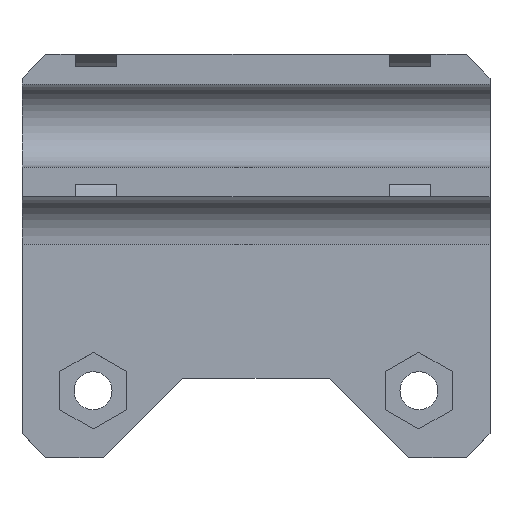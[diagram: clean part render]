
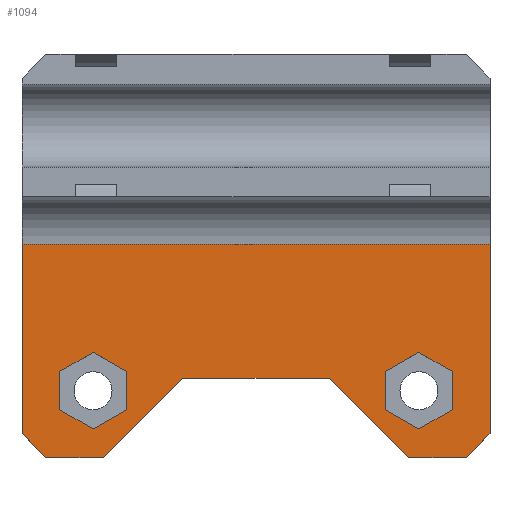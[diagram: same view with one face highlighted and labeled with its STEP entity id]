
A CAD part, top view. The second image highlights one B-rep face of the part: STEP entity #1094.
In plain terms, the highlighted planar face has unit normal (0, 0, 1).
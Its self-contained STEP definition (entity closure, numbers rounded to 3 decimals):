
#547=CARTESIAN_POINT('Line Origine',(-41.772,-4.381,-10.089)) ;
#551=CARTESIAN_POINT('Vertex',(-22.022,-4.381,-10.089)) ;
#553=CARTESIAN_POINT('Vertex',(-61.522,-4.381,-10.089)) ;
#592=CARTESIAN_POINT('Line Origine',(-22.022,-12.381,-10.089)) ;
#596=CARTESIAN_POINT('Vertex',(-22.022,-20.381,-10.089)) ;
#621=CARTESIAN_POINT('Line Origine',(-23.022,-21.381,-10.089)) ;
#625=CARTESIAN_POINT('Vertex',(-24.022,-22.381,-10.089)) ;
#652=CARTESIAN_POINT('Line Origine',(-61.522,-12.381,-10.089)) ;
#656=CARTESIAN_POINT('Vertex',(-61.522,-20.381,-10.089)) ;
#695=CARTESIAN_POINT('Line Origine',(-60.522,-21.381,-10.089)) ;
#699=CARTESIAN_POINT('Vertex',(-59.522,-22.381,-10.089)) ;
#818=CARTESIAN_POINT('Vertex',(-28.877,-22.381,-10.089)) ;
#828=CARTESIAN_POINT('Line Origine',(-26.45,-22.381,-10.089)) ;
#844=CARTESIAN_POINT('Vertex',(-54.667,-22.381,-10.089)) ;
#849=CARTESIAN_POINT('Line Origine',(-57.094,-22.381,-10.089)) ;
#871=CARTESIAN_POINT('Line Origine',(-38.669,-15.691,-10.089)) ;
#875=CARTESIAN_POINT('Vertex',(-35.567,-15.691,-10.089)) ;
#877=CARTESIAN_POINT('Vertex',(-41.772,-15.691,-10.089)) ;
#906=CARTESIAN_POINT('Line Origine',(-44.875,-15.691,-10.089)) ;
#910=CARTESIAN_POINT('Vertex',(-47.977,-15.691,-10.089)) ;
#942=CARTESIAN_POINT('Line Origine',(-32.222,-19.036,-10.089)) ;
#959=CARTESIAN_POINT('Line Origine',(-51.322,-19.036,-10.089)) ;
#976=CARTESIAN_POINT('Axis2P3D Location',(0.,0.,-10.089)) ;
#994=CARTESIAN_POINT('Line Origine',(-29.422,-19.167,-10.089)) ;
#998=CARTESIAN_POINT('Vertex',(-30.822,-18.358,-10.089)) ;
#1000=CARTESIAN_POINT('Vertex',(-28.022,-19.975,-10.089)) ;
#1003=CARTESIAN_POINT('Line Origine',(-30.822,-16.742,-10.089)) ;
#1007=CARTESIAN_POINT('Vertex',(-30.822,-15.125,-10.089)) ;
#1010=CARTESIAN_POINT('Line Origine',(-29.422,-14.317,-10.089)) ;
#1014=CARTESIAN_POINT('Vertex',(-28.022,-13.508,-10.089)) ;
#1017=CARTESIAN_POINT('Line Origine',(-26.622,-14.317,-10.089)) ;
#1021=CARTESIAN_POINT('Vertex',(-25.222,-15.125,-10.089)) ;
#1024=CARTESIAN_POINT('Line Origine',(-25.222,-16.742,-10.089)) ;
#1028=CARTESIAN_POINT('Vertex',(-25.222,-18.358,-10.089)) ;
#1031=CARTESIAN_POINT('Line Origine',(-26.622,-19.167,-10.089)) ;
#1044=CARTESIAN_POINT('Line Origine',(-56.922,-14.317,-10.089)) ;
#1048=CARTESIAN_POINT('Vertex',(-58.322,-15.125,-10.089)) ;
#1050=CARTESIAN_POINT('Vertex',(-55.522,-13.508,-10.089)) ;
#1053=CARTESIAN_POINT('Line Origine',(-54.122,-14.317,-10.089)) ;
#1057=CARTESIAN_POINT('Vertex',(-52.722,-15.125,-10.089)) ;
#1060=CARTESIAN_POINT('Line Origine',(-52.722,-16.742,-10.089)) ;
#1064=CARTESIAN_POINT('Vertex',(-52.722,-18.358,-10.089)) ;
#1067=CARTESIAN_POINT('Line Origine',(-54.122,-19.167,-10.089)) ;
#1071=CARTESIAN_POINT('Vertex',(-55.522,-19.975,-10.089)) ;
#1074=CARTESIAN_POINT('Line Origine',(-56.922,-19.167,-10.089)) ;
#1078=CARTESIAN_POINT('Vertex',(-58.322,-18.358,-10.089)) ;
#1081=CARTESIAN_POINT('Line Origine',(-58.322,-16.742,-10.089)) ;
#548=DIRECTION('Vector Direction',(-1.,0.,0.)) ;
#593=DIRECTION('Vector Direction',(0.,1.,0.)) ;
#622=DIRECTION('Vector Direction',(-0.707,-0.707,0.)) ;
#653=DIRECTION('Vector Direction',(0.,-1.,0.)) ;
#696=DIRECTION('Vector Direction',(0.707,-0.707,0.)) ;
#829=DIRECTION('Vector Direction',(-1.,0.,0.)) ;
#850=DIRECTION('Vector Direction',(-1.,0.,0.)) ;
#872=DIRECTION('Vector Direction',(-1.,0.,0.)) ;
#907=DIRECTION('Vector Direction',(-1.,0.,0.)) ;
#943=DIRECTION('Vector Direction',(-0.707,0.707,0.)) ;
#960=DIRECTION('Vector Direction',(0.707,0.707,0.)) ;
#977=DIRECTION('Axis2P3D Direction',(0.,0.,1.)) ;
#978=DIRECTION('Axis2P3D XDirection',(1.,0.,0.)) ;
#995=DIRECTION('Vector Direction',(0.866,-0.5,0.)) ;
#1004=DIRECTION('Vector Direction',(0.,-1.,0.)) ;
#1011=DIRECTION('Vector Direction',(-0.866,-0.5,0.)) ;
#1018=DIRECTION('Vector Direction',(-0.866,0.5,0.)) ;
#1025=DIRECTION('Vector Direction',(0.,1.,0.)) ;
#1032=DIRECTION('Vector Direction',(0.866,0.5,0.)) ;
#1045=DIRECTION('Vector Direction',(0.866,0.5,0.)) ;
#1054=DIRECTION('Vector Direction',(0.866,-0.5,0.)) ;
#1061=DIRECTION('Vector Direction',(0.,-1.,0.)) ;
#1068=DIRECTION('Vector Direction',(-0.866,-0.5,0.)) ;
#1075=DIRECTION('Vector Direction',(-0.866,0.5,0.)) ;
#1082=DIRECTION('Vector Direction',(0.,1.,0.)) ;
#979=AXIS2_PLACEMENT_3D('Plane Axis2P3D',#976,#977,#978) ;
#982=ORIENTED_EDGE('',*,*,#832,.T.) ;
#983=ORIENTED_EDGE('',*,*,#627,.F.) ;
#984=ORIENTED_EDGE('',*,*,#598,.T.) ;
#985=ORIENTED_EDGE('',*,*,#555,.T.) ;
#986=ORIENTED_EDGE('',*,*,#658,.T.) ;
#987=ORIENTED_EDGE('',*,*,#701,.F.) ;
#988=ORIENTED_EDGE('',*,*,#853,.T.) ;
#989=ORIENTED_EDGE('',*,*,#963,.T.) ;
#990=ORIENTED_EDGE('',*,*,#912,.F.) ;
#991=ORIENTED_EDGE('',*,*,#879,.F.) ;
#992=ORIENTED_EDGE('',*,*,#946,.F.) ;
#1037=ORIENTED_EDGE('',*,*,#1002,.F.) ;
#1038=ORIENTED_EDGE('',*,*,#1009,.F.) ;
#1039=ORIENTED_EDGE('',*,*,#1016,.F.) ;
#1040=ORIENTED_EDGE('',*,*,#1023,.F.) ;
#1041=ORIENTED_EDGE('',*,*,#1030,.F.) ;
#1042=ORIENTED_EDGE('',*,*,#1035,.F.) ;
#1087=ORIENTED_EDGE('',*,*,#1052,.T.) ;
#1088=ORIENTED_EDGE('',*,*,#1059,.T.) ;
#1089=ORIENTED_EDGE('',*,*,#1066,.T.) ;
#1090=ORIENTED_EDGE('',*,*,#1073,.T.) ;
#1091=ORIENTED_EDGE('',*,*,#1080,.T.) ;
#1092=ORIENTED_EDGE('',*,*,#1085,.T.) ;
#1043=FACE_BOUND('',#1036,.T.) ;
#1093=FACE_BOUND('',#1086,.T.) ;
#549=VECTOR('Line Direction',#548,1.) ;
#594=VECTOR('Line Direction',#593,1.) ;
#623=VECTOR('Line Direction',#622,1.) ;
#654=VECTOR('Line Direction',#653,1.) ;
#697=VECTOR('Line Direction',#696,1.) ;
#830=VECTOR('Line Direction',#829,1.) ;
#851=VECTOR('Line Direction',#850,1.) ;
#873=VECTOR('Line Direction',#872,1.) ;
#908=VECTOR('Line Direction',#907,1.) ;
#944=VECTOR('Line Direction',#943,1.) ;
#961=VECTOR('Line Direction',#960,1.) ;
#996=VECTOR('Line Direction',#995,1.) ;
#1005=VECTOR('Line Direction',#1004,1.) ;
#1012=VECTOR('Line Direction',#1011,1.) ;
#1019=VECTOR('Line Direction',#1018,1.) ;
#1026=VECTOR('Line Direction',#1025,1.) ;
#1033=VECTOR('Line Direction',#1032,1.) ;
#1046=VECTOR('Line Direction',#1045,1.) ;
#1055=VECTOR('Line Direction',#1054,1.) ;
#1062=VECTOR('Line Direction',#1061,1.) ;
#1069=VECTOR('Line Direction',#1068,1.) ;
#1076=VECTOR('Line Direction',#1075,1.) ;
#1083=VECTOR('Line Direction',#1082,1.) ;
#1094=ADVANCED_FACE('PartBody',(#993,#1043,#1093),#980,.T.) ;
#555=EDGE_CURVE('',#552,#554,#550,.T.) ;
#598=EDGE_CURVE('',#597,#552,#595,.T.) ;
#627=EDGE_CURVE('',#597,#626,#624,.T.) ;
#658=EDGE_CURVE('',#554,#657,#655,.T.) ;
#701=EDGE_CURVE('',#700,#657,#698,.F.) ;
#832=EDGE_CURVE('',#819,#626,#831,.F.) ;
#853=EDGE_CURVE('',#700,#845,#852,.F.) ;
#879=EDGE_CURVE('',#876,#878,#874,.T.) ;
#912=EDGE_CURVE('',#878,#911,#909,.T.) ;
#946=EDGE_CURVE('',#819,#876,#945,.T.) ;
#963=EDGE_CURVE('',#845,#911,#962,.T.) ;
#1002=EDGE_CURVE('',#999,#1001,#997,.T.) ;
#1009=EDGE_CURVE('',#1008,#999,#1006,.T.) ;
#1016=EDGE_CURVE('',#1015,#1008,#1013,.T.) ;
#1023=EDGE_CURVE('',#1022,#1015,#1020,.T.) ;
#1030=EDGE_CURVE('',#1029,#1022,#1027,.T.) ;
#1035=EDGE_CURVE('',#1001,#1029,#1034,.T.) ;
#1052=EDGE_CURVE('',#1049,#1051,#1047,.T.) ;
#1059=EDGE_CURVE('',#1051,#1058,#1056,.T.) ;
#1066=EDGE_CURVE('',#1058,#1065,#1063,.T.) ;
#1073=EDGE_CURVE('',#1065,#1072,#1070,.T.) ;
#1080=EDGE_CURVE('',#1072,#1079,#1077,.T.) ;
#1085=EDGE_CURVE('',#1079,#1049,#1084,.T.) ;
#981=EDGE_LOOP('',(#982,#983,#984,#985,#986,#987,#988,#989,#990,#991,#992)) ;
#1036=EDGE_LOOP('',(#1037,#1038,#1039,#1040,#1041,#1042)) ;
#1086=EDGE_LOOP('',(#1087,#1088,#1089,#1090,#1091,#1092)) ;
#993=FACE_OUTER_BOUND('',#981,.T.) ;
#550=LINE('Line',#547,#549) ;
#595=LINE('Line',#592,#594) ;
#624=LINE('Line',#621,#623) ;
#655=LINE('Line',#652,#654) ;
#698=LINE('Line',#695,#697) ;
#831=LINE('Line',#828,#830) ;
#852=LINE('Line',#849,#851) ;
#874=LINE('Line',#871,#873) ;
#909=LINE('Line',#906,#908) ;
#945=LINE('Line',#942,#944) ;
#962=LINE('Line',#959,#961) ;
#997=LINE('Line',#994,#996) ;
#1006=LINE('Line',#1003,#1005) ;
#1013=LINE('Line',#1010,#1012) ;
#1020=LINE('Line',#1017,#1019) ;
#1027=LINE('Line',#1024,#1026) ;
#1034=LINE('Line',#1031,#1033) ;
#1047=LINE('Line',#1044,#1046) ;
#1056=LINE('Line',#1053,#1055) ;
#1063=LINE('Line',#1060,#1062) ;
#1070=LINE('Line',#1067,#1069) ;
#1077=LINE('Line',#1074,#1076) ;
#1084=LINE('Line',#1081,#1083) ;
#980=PLANE('Plane',#979) ;
#552=VERTEX_POINT('',#551) ;
#554=VERTEX_POINT('',#553) ;
#597=VERTEX_POINT('',#596) ;
#626=VERTEX_POINT('',#625) ;
#657=VERTEX_POINT('',#656) ;
#700=VERTEX_POINT('',#699) ;
#819=VERTEX_POINT('',#818) ;
#845=VERTEX_POINT('',#844) ;
#876=VERTEX_POINT('',#875) ;
#878=VERTEX_POINT('',#877) ;
#911=VERTEX_POINT('',#910) ;
#999=VERTEX_POINT('',#998) ;
#1001=VERTEX_POINT('',#1000) ;
#1008=VERTEX_POINT('',#1007) ;
#1015=VERTEX_POINT('',#1014) ;
#1022=VERTEX_POINT('',#1021) ;
#1029=VERTEX_POINT('',#1028) ;
#1049=VERTEX_POINT('',#1048) ;
#1051=VERTEX_POINT('',#1050) ;
#1058=VERTEX_POINT('',#1057) ;
#1065=VERTEX_POINT('',#1064) ;
#1072=VERTEX_POINT('',#1071) ;
#1079=VERTEX_POINT('',#1078) ;
